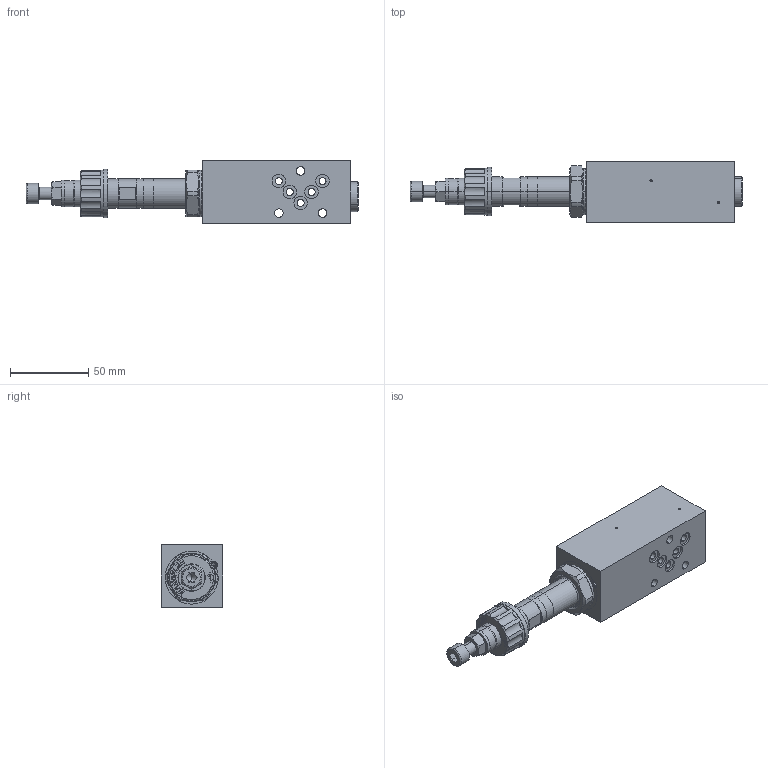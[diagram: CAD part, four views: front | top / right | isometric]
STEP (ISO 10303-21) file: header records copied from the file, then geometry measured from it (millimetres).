
FILE_DESCRIPTION (( 'STEP AP214' ), '1' );
FILE_NAME ('B.ISA04-P.STEP', '2017-03-23T14:57:23', ( '' ), ( '' ), 'SwSTEP 2.0', 'SolidWorks 2016', '' );
FILE_SCHEMA (( 'AUTOMOTIVE_DESIGN' ));
Length unit declared in the file: millimetre
Products named in the file (1): B.ISA04-P
Bounding box: 212.5 x 39.5 x 40 mm (x, y, z)
Volume: 182293.7 mm3; surface area: 34936.5 mm2
Topology: 2 solids, 5 shells, 429 faces, 1060 edges, 667 vertices
Faces by surface type: plane 206, cylinder 111, cone 70, bspline 22, torus 16, sphere 4
Entity records: 18544 total; most frequent: CARTESIAN_POINT 3690, DIRECTION 2094, ORIENTED_EDGE 2088, EDGE_CURVE 1044, AXIS2_PLACEMENT_3D 761, VERTEX_POINT 667, VECTOR 572, LINE 572
